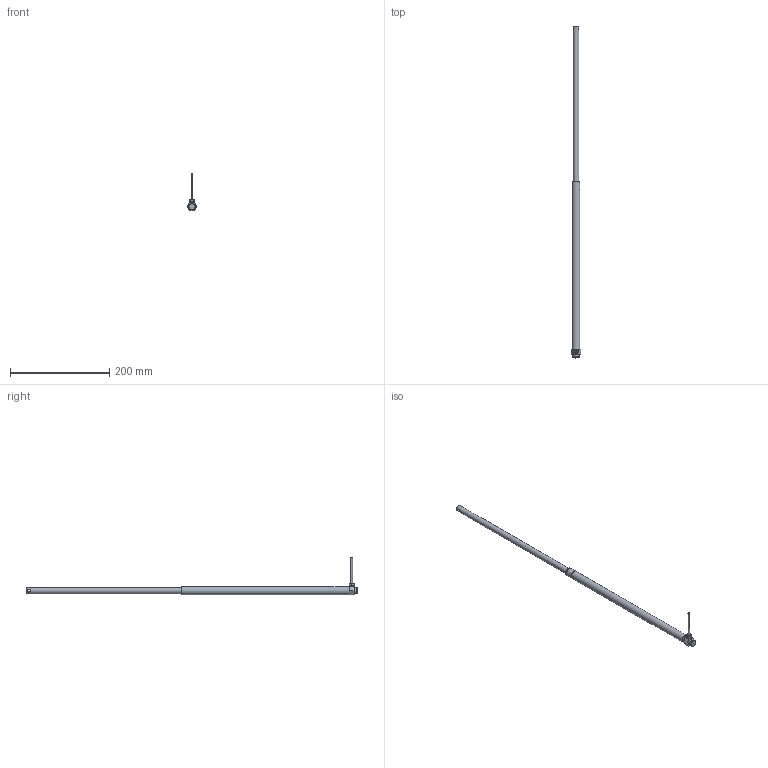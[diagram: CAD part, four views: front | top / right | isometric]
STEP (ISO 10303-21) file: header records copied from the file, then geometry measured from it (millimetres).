
FILE_DESCRIPTION(/* description */ ('Unknown'),/* implementation_level */ '2;1');
FILE_NAME(/* name */ '107.00023 Zylinder CB 1430_ausgefahren',/* time_stamp */ '2018-03-26T08:55:12+02:00',/* author */ ('Unknown'),/* organization */ ('Unknown'),/* preprocessor_version */ 'ST-DEVELOPER v16.7',/* originating_system */ 'DEX',/* authorisation */ $);
FILE_SCHEMA (('AUTOMOTIVE_DESIGN {1 0 10303 214 3 1 1}'));
Length unit declared in the file: millimetre
Products named in the file (9): 107.00023; 121.00003; 142.00021; 125.00021; 115.00001_oa_0; 125.00033; 120.00003; 122.00001; 113.00002_70mm
Assembly tree (8 placements, depth 2):
  107.00023
    121.00003
    142.00021
    125.00021
    115.00001_oa_0
    125.00033
    120.00003
    122.00001
    113.00002_70mm
Bounding box: 19.63 x 669 x 76.5 mm (x, y, z)
Volume: 59069.7 mm3; surface area: 50602.5 mm2
Topology: 7 solids, 7 shells, 91 faces, 188 edges, 121 vertices
Faces by surface type: plane 37, cylinder 28, cone 22, torus 3, sphere 1
Full cylindrical faces by diameter (mm): 2.2 x1, 2.78 x1, 3.5 x1, 4 x1, 4.1 x1, 4.2 x1, 6 x1, 6.917 x2, 7.763 x2, 8 x3, 8.1 x3, 9 x1, 12 x2, 12.5 x1, 13 x2, 13.9 x2, 14 x2, 16 x1
Entity records: 2733 total; most frequent: CARTESIAN_POINT 436, DIRECTION 380, ORIENTED_EDGE 248, AXIS2_PLACEMENT_3D 172, FACE_BOUND 164, EDGE_LOOP 162, EDGE_CURVE 124, VERTEX_POINT 108
